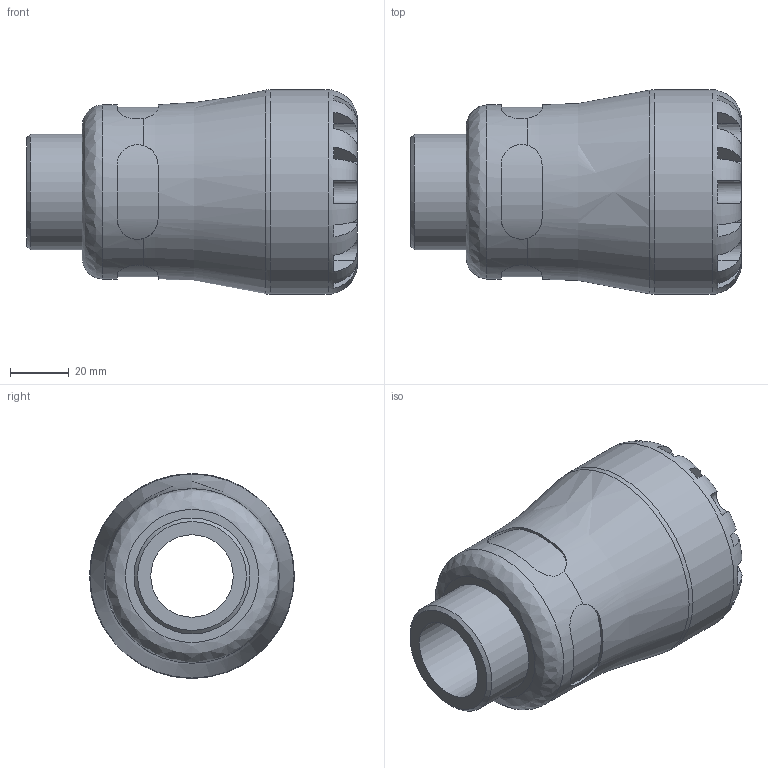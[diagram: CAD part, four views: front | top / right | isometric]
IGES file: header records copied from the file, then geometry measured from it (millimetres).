
Global section: file name: 107200040013_197200040013.ipt; native system: Autodesk Inventor 2015; preprocessor: unknown; author: KIM; date: 20170122.104937; units: millimetre
Bounding box: 113 x 70 x 70 mm (x, y, z)
Volume: 202988.1 mm3; surface area: 40045.5 mm2
Topology: 1 solids, 1 shells, 99 faces, 264 edges, 169 vertices
Faces by surface type: plane 60, revolution 23, cylinder 15, cone 1
Full cylindrical faces by diameter (mm): 39.592 x1, 59.5 x1, 70 x1
